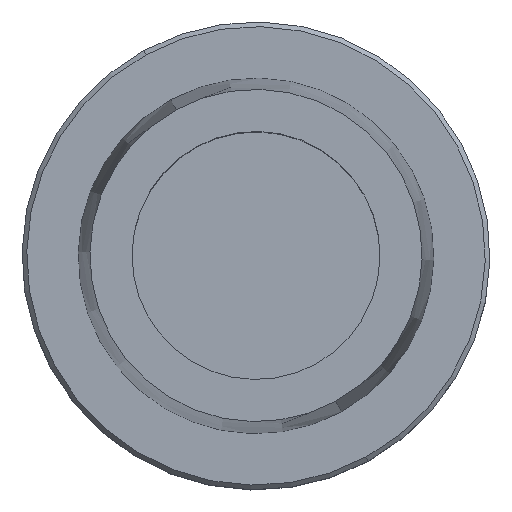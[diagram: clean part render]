
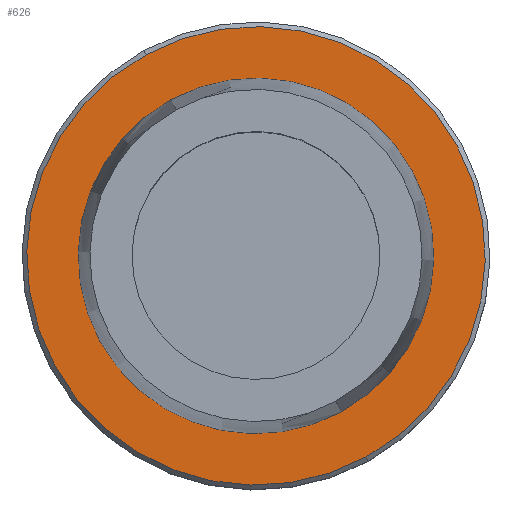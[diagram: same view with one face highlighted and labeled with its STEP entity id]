
A CAD part, top view. The second image highlights one B-rep face of the part: STEP entity #626.
In plain terms, the highlighted planar face has unit normal (0, 0, 1).
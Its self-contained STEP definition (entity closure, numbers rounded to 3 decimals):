
#39=AXIS2_PLACEMENT_3D('Circle Axis2P3D',#37,#38,$) ;
#144=AXIS2_PLACEMENT_3D('Circle Axis2P3D',#142,#143,$) ;
#606=AXIS2_PLACEMENT_3D('Plane Axis2P3D',#603,#604,#605) ;
#610=AXIS2_PLACEMENT_3D('Circle Axis2P3D',#608,#609,$) ;
#619=AXIS2_PLACEMENT_3D('Circle Axis2P3D',#617,#618,$) ;
#37=CARTESIAN_POINT('Axis2P3D Location',(0.,0.,0.)) ;
#41=CARTESIAN_POINT('Vertex',(18.218,-33.348,0.)) ;
#43=CARTESIAN_POINT('Vertex',(-18.218,33.348,0.)) ;
#139=CARTESIAN_POINT('Vertex',(-23.492,43.002,0.)) ;
#142=CARTESIAN_POINT('Axis2P3D Location',(0.,0.,0.)) ;
#146=CARTESIAN_POINT('Vertex',(23.492,-43.002,0.)) ;
#603=CARTESIAN_POINT('Axis2P3D Location',(0.,-38.285,0.)) ;
#608=CARTESIAN_POINT('Axis2P3D Location',(0.,0.,0.)) ;
#617=CARTESIAN_POINT('Axis2P3D Location',(0.,0.,0.)) ;
#38=DIRECTION('Axis2P3D Direction',(0.,0.,-1.)) ;
#143=DIRECTION('Axis2P3D Direction',(0.,0.,-1.)) ;
#604=DIRECTION('Axis2P3D Direction',(0.,0.,-1.)) ;
#605=DIRECTION('Axis2P3D XDirection',(-1.,0.,0.)) ;
#609=DIRECTION('Axis2P3D Direction',(0.,0.,-1.)) ;
#618=DIRECTION('Axis2P3D Direction',(0.,0.,-1.)) ;
#614=ORIENTED_EDGE('',*,*,#148,.T.) ;
#615=ORIENTED_EDGE('',*,*,#612,.T.) ;
#623=ORIENTED_EDGE('',*,*,#621,.F.) ;
#624=ORIENTED_EDGE('',*,*,#45,.F.) ;
#625=FACE_BOUND('',#622,.T.) ;
#626=ADVANCED_FACE('NOCUT',(#616,#625),#607,.F.) ;
#40=CIRCLE('generated circle',#39,38.) ;
#145=CIRCLE('generated circle',#144,49.) ;
#611=CIRCLE('generated circle',#610,49.) ;
#620=CIRCLE('generated circle',#619,38.) ;
#45=EDGE_CURVE('',#42,#44,#40,.F.) ;
#148=EDGE_CURVE('',#147,#140,#145,.F.) ;
#612=EDGE_CURVE('',#140,#147,#611,.F.) ;
#621=EDGE_CURVE('',#44,#42,#620,.F.) ;
#613=EDGE_LOOP('',(#614,#615)) ;
#622=EDGE_LOOP('',(#623,#624)) ;
#616=FACE_OUTER_BOUND('',#613,.T.) ;
#607=PLANE('',#606) ;
#42=VERTEX_POINT('',#41) ;
#44=VERTEX_POINT('',#43) ;
#140=VERTEX_POINT('',#139) ;
#147=VERTEX_POINT('',#146) ;
